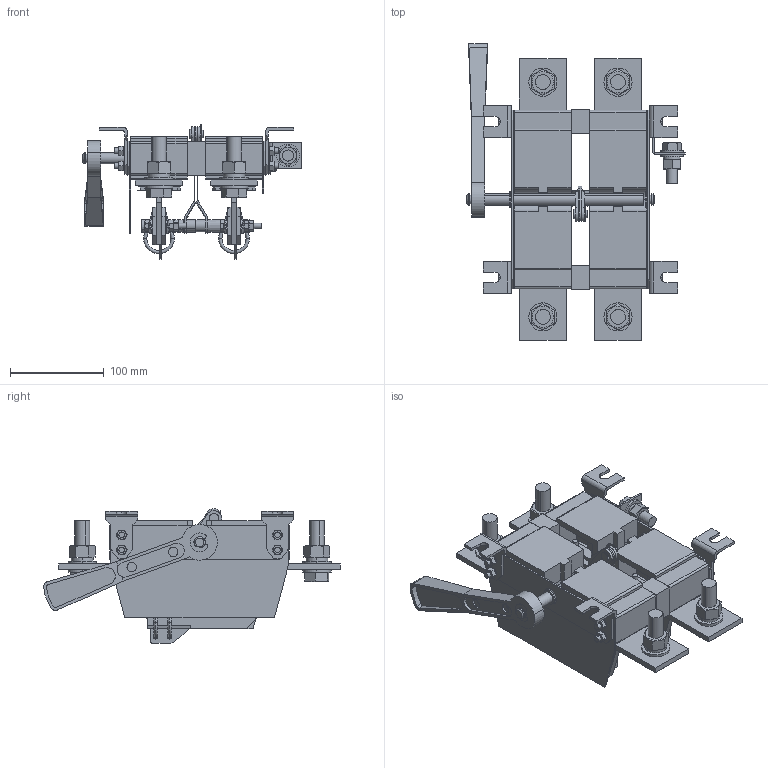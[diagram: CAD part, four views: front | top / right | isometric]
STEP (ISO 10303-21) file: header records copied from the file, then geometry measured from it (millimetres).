
FILE_DESCRIPTION (( 'STEP AP203' ), '1' );
FILE_NAME ('ÐÅ19-41(43)-21120.STEP', '2016-05-30T07:09:52', ( 'user' ), ( '' ), 'SwSTEP 2.0', 'SolidWorks 2010', '' );
FILE_SCHEMA (( 'CONFIG_CONTROL_DESIGN' ));
Length unit declared in the file: millimetre
Products named in the file (1): 陓19-41(43)-21120
Bounding box: 232.5 x 316.15 x 143.25 mm (x, y, z)
Surface area: 435187.7 mm2 (no closed solid volume)
Topology: 0 solids, 163 shells, 1225 faces, 4127 edges, 3047 vertices
Faces by surface type: plane 719, cylinder 330, cone 121, torus 47, sphere 8
Entity records: 47116 total; most frequent: CARTESIAN_POINT 11592, DIRECTION 7379, ORIENTED_EDGE 6489, EDGE_CURVE 4111, VERTEX_POINT 3047, AXIS2_PLACEMENT_3D 2625, VECTOR 2129, LINE 2129
